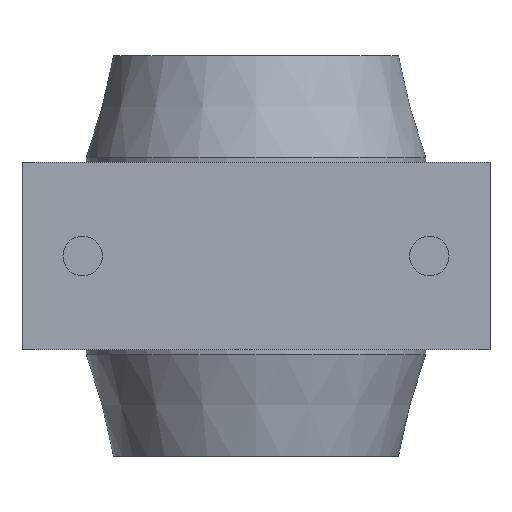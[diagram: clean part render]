
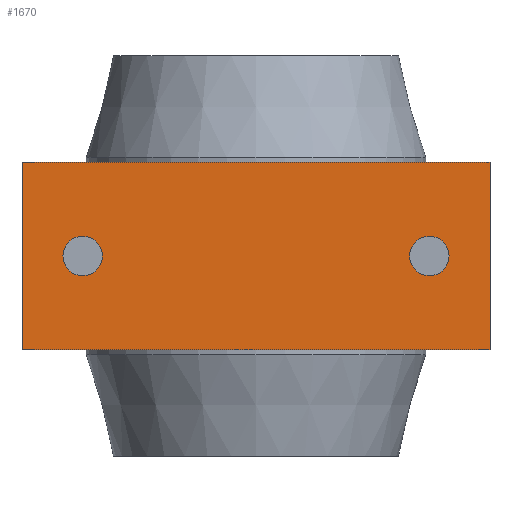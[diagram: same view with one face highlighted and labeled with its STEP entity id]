
A CAD part, front view. The second image highlights one B-rep face of the part: STEP entity #1670.
In plain terms, the highlighted planar face has unit normal (0, -1, 0).
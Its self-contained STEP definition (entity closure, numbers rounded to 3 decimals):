
#105=FACE_BOUND('',#300,.T.);
#106=FACE_BOUND('',#301,.T.);
#139=PLANE('',#1913);
#198=FACE_OUTER_BOUND('',#299,.T.);
#299=EDGE_LOOP('',(#1209,#1210,#1211,#1212));
#300=EDGE_LOOP('',(#1213,#1214));
#301=EDGE_LOOP('',(#1215,#1216));
#418=LINE('',#2757,#505);
#425=LINE('',#2773,#512);
#434=LINE('',#2808,#521);
#435=LINE('',#2810,#522);
#505=VECTOR('',#2165,10.);
#512=VECTOR('',#2178,10.);
#521=VECTOR('',#2221,10.);
#522=VECTOR('',#2224,10.);
#584=CIRCLE('',#1860,5.053);
#585=CIRCLE('',#1861,5.053);
#588=CIRCLE('',#1866,5.053);
#589=CIRCLE('',#1867,5.053);
#690=VERTEX_POINT('',#2686);
#691=VERTEX_POINT('',#2687);
#694=VERTEX_POINT('',#2697);
#695=VERTEX_POINT('',#2698);
#717=VERTEX_POINT('',#2754);
#718=VERTEX_POINT('',#2756);
#723=VERTEX_POINT('',#2770);
#724=VERTEX_POINT('',#2772);
#855=EDGE_CURVE('',#690,#691,#584,.T.);
#856=EDGE_CURVE('',#691,#690,#585,.T.);
#860=EDGE_CURVE('',#694,#695,#588,.T.);
#861=EDGE_CURVE('',#695,#694,#589,.T.);
#888=EDGE_CURVE('',#718,#717,#418,.T.);
#896=EDGE_CURVE('',#724,#723,#425,.T.);
#915=EDGE_CURVE('',#717,#724,#434,.T.);
#916=EDGE_CURVE('',#723,#718,#435,.T.);
#1209=ORIENTED_EDGE('',*,*,#915,.T.);
#1210=ORIENTED_EDGE('',*,*,#896,.T.);
#1211=ORIENTED_EDGE('',*,*,#916,.T.);
#1212=ORIENTED_EDGE('',*,*,#888,.T.);
#1213=ORIENTED_EDGE('',*,*,#855,.T.);
#1214=ORIENTED_EDGE('',*,*,#856,.T.);
#1215=ORIENTED_EDGE('',*,*,#860,.T.);
#1216=ORIENTED_EDGE('',*,*,#861,.T.);
#1670=ADVANCED_FACE('',(#198,#105,#106),#139,.F.);
#1860=AXIS2_PLACEMENT_3D('',#2688,#2091,#2092);
#1861=AXIS2_PLACEMENT_3D('',#2689,#2093,#2094);
#1866=AXIS2_PLACEMENT_3D('',#2699,#2104,#2105);
#1867=AXIS2_PLACEMENT_3D('',#2700,#2106,#2107);
#1913=AXIS2_PLACEMENT_3D('',#2811,#2225,#2226);
#2091=DIRECTION('center_axis',(0.,1.,0.));
#2092=DIRECTION('ref_axis',(-1.,0.,0.));
#2093=DIRECTION('center_axis',(0.,1.,0.));
#2094=DIRECTION('ref_axis',(-1.,0.,0.));
#2104=DIRECTION('center_axis',(0.,1.,0.));
#2105=DIRECTION('ref_axis',(-1.,0.,0.));
#2106=DIRECTION('center_axis',(0.,1.,0.));
#2107=DIRECTION('ref_axis',(-1.,0.,0.));
#2165=DIRECTION('',(1.,0.,0.));
#2178=DIRECTION('',(-1.,0.,0.));
#2221=DIRECTION('',(0.,0.,1.));
#2224=DIRECTION('',(0.,0.,-1.));
#2225=DIRECTION('center_axis',(0.,1.,0.));
#2226=DIRECTION('ref_axis',(0.,0.,1.));
#2686=CARTESIAN_POINT('',(-49.503,-49.2,0.));
#2687=CARTESIAN_POINT('',(-39.397,-49.2,0.));
#2688=CARTESIAN_POINT('Origin',(-44.45,-49.2,0.));
#2689=CARTESIAN_POINT('Origin',(-44.45,-49.2,0.));
#2697=CARTESIAN_POINT('',(39.397,-49.2,0.));
#2698=CARTESIAN_POINT('',(49.503,-49.2,0.));
#2699=CARTESIAN_POINT('Origin',(44.45,-49.2,0.));
#2700=CARTESIAN_POINT('Origin',(44.45,-49.2,0.));
#2754=CARTESIAN_POINT('',(60.,-49.2,-24.));
#2756=CARTESIAN_POINT('',(-60.,-49.2,-24.));
#2757=CARTESIAN_POINT('',(30.,-49.2,-24.));
#2770=CARTESIAN_POINT('',(-60.,-49.2,24.));
#2772=CARTESIAN_POINT('',(60.,-49.2,24.));
#2773=CARTESIAN_POINT('',(-30.,-49.2,24.));
#2808=CARTESIAN_POINT('',(60.,-49.2,12.));
#2810=CARTESIAN_POINT('',(-60.,-49.2,-12.));
#2811=CARTESIAN_POINT('Origin',(0.,-49.2,0.));
